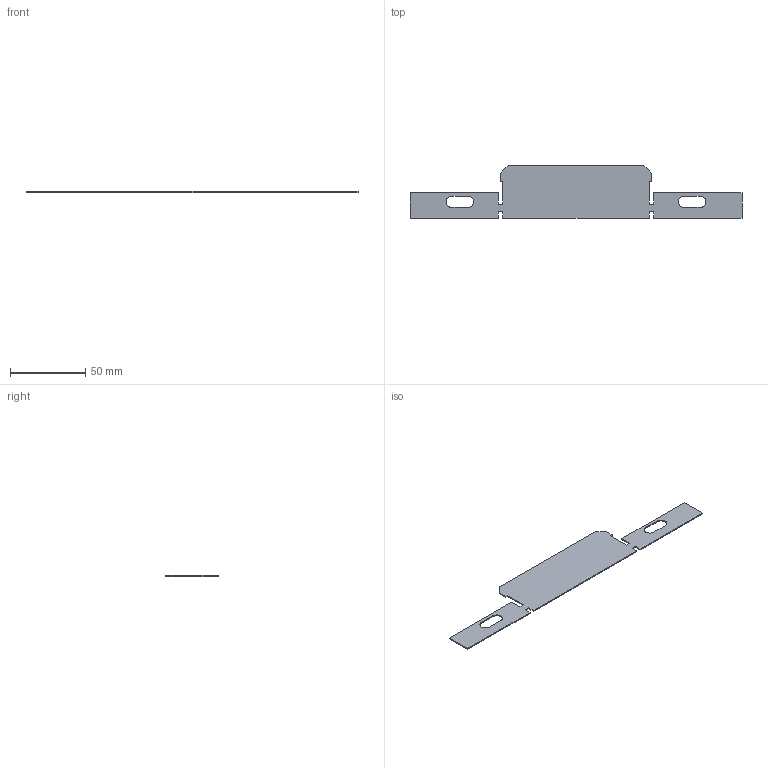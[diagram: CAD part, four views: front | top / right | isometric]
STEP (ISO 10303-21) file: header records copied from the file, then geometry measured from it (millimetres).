
FILE_DESCRIPTION (( 'STEP AP203' ), '1' );
FILE_NAME ('REER 100x35.STEP', '2020-02-12T08:24:57', ( '' ), ( '' ), 'SwSTEP 2.0', 'SolidWorks 2019', '' );
FILE_SCHEMA (( 'CONFIG_CONTROL_DESIGN' ));
Length unit declared in the file: millimetre
Products named in the file (1): REER 100x35
Bounding box: 220 x 35 x 0.7 mm (x, y, z)
Volume: 3622.3 mm3; surface area: 10802.4 mm2
Topology: 1 solids, 1 shells, 38 faces, 108 edges, 72 vertices
Faces by surface type: plane 32, cylinder 6
Entity records: 1309 total; most frequent: CARTESIAN_POINT 219, ORIENTED_EDGE 216, DIRECTION 198, EDGE_CURVE 108, VECTOR 96, LINE 96, VERTEX_POINT 72, AXIS2_PLACEMENT_3D 51
